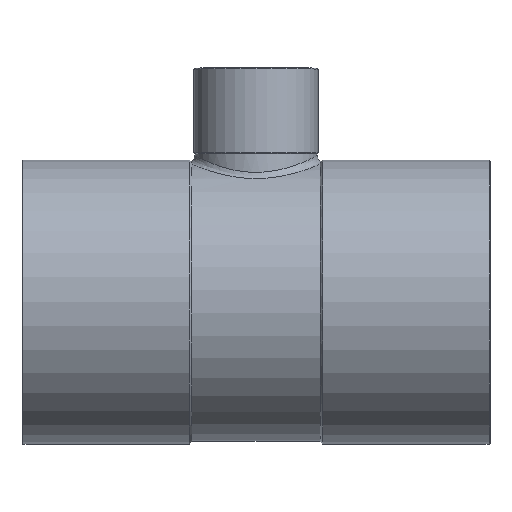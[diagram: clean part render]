
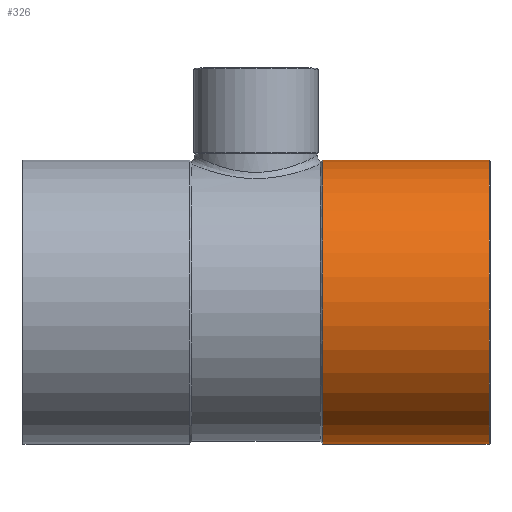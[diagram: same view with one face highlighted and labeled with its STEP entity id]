
A CAD part, top view. The second image highlights one B-rep face of the part: STEP entity #326.
In plain terms, the highlighted cylindrical face has radius 28.525 mm (diameter 57.05 mm), a partial arc.
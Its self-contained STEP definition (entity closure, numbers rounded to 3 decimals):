
#285=CARTESIAN_POINT('',(30.2,0.0,0.0));
#286=DIRECTION('',(1.0,0.0,0.0));
#287=DIRECTION('',(0.0,1.0,0.0));
#288=AXIS2_PLACEMENT_3D('',#285,#286,#287);
#289=CYLINDRICAL_SURFACE('',#288,28.525);
#290=CARTESIAN_POINT('',(13.399,28.525,0.0));
#291=VERTEX_POINT('',#290);
#292=CARTESIAN_POINT('',(46.8,28.525,0.));
#293=VERTEX_POINT('',#292);
#294=CARTESIAN_POINT('',(13.399,28.525,0.0));
#295=DIRECTION('',(1.0,0.0,0.0));
#296=VECTOR('',#295,33.401);
#297=LINE('',#294,#296);
#298=EDGE_CURVE('',#291,#293,#297,.T.);
#299=ORIENTED_EDGE('',*,*,#298,.F.);
#300=CARTESIAN_POINT('',(13.399,-28.525,0.));
#301=VERTEX_POINT('',#300);
#302=CARTESIAN_POINT('',(13.399,0.0,0.0));
#303=DIRECTION('',(1.0,0.0,0.0));
#304=DIRECTION('',(0.0,1.0,0.0));
#305=AXIS2_PLACEMENT_3D('',#302,#303,#304);
#306=CIRCLE('',#305,28.525);
#307=EDGE_CURVE('',#291,#301,#306,.T.);
#308=ORIENTED_EDGE('',*,*,#307,.T.);
#309=CARTESIAN_POINT('',(46.8,-28.525,0.));
#310=VERTEX_POINT('',#309);
#311=CARTESIAN_POINT('',(46.8,-28.525,0.));
#312=DIRECTION('',(-1.0,0.0,0.0));
#313=VECTOR('',#312,33.401);
#314=LINE('',#311,#313);
#315=EDGE_CURVE('',#310,#301,#314,.T.);
#316=ORIENTED_EDGE('',*,*,#315,.F.);
#317=CARTESIAN_POINT('',(46.8,0.0,0.0));
#318=DIRECTION('',(1.0,0.0,0.0));
#319=DIRECTION('',(0.0,-1.0,0.0));
#320=AXIS2_PLACEMENT_3D('',#317,#318,#319);
#321=CIRCLE('',#320,28.525);
#322=EDGE_CURVE('',#293,#310,#321,.T.);
#323=ORIENTED_EDGE('',*,*,#322,.F.);
#324=EDGE_LOOP('',(#299,#308,#316,#323));
#325=FACE_OUTER_BOUND('',#324,.T.);
#326=ADVANCED_FACE('',(#325),#289,.T.);
